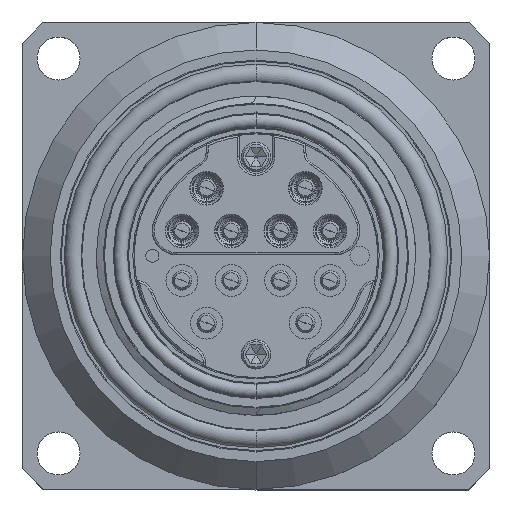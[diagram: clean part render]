
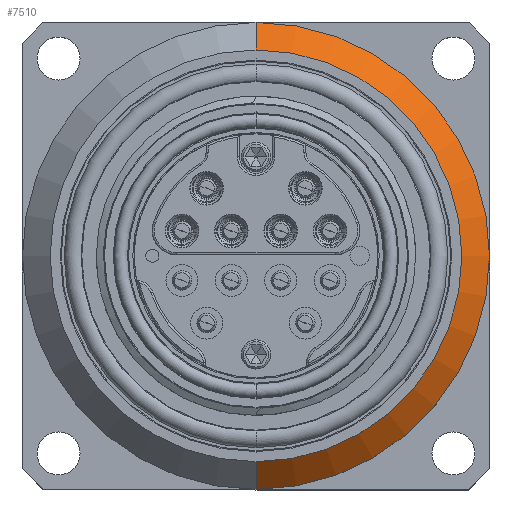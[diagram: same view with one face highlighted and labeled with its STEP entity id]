
A CAD part, top view. The second image highlights one B-rep face of the part: STEP entity #7510.
In plain terms, the highlighted conical face has half-angle 45 degrees and reference radius 30.035 mm.
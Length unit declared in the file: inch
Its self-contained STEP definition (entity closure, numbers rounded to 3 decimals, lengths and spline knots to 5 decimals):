
#1155 = CARTESIAN_POINT ( 'NONE',  ( 0., 0., -0.69822 ) ) ;
#4198 = VERTEX_POINT ( 'NONE', #92810 ) ;
#7510 = ADVANCED_FACE ( 'NONE', ( #67399 ), #53045, .T. ) ;
#9904 = VECTOR ( 'NONE', #24839, 39.37008 ) ;
#10522 = EDGE_CURVE ( 'NONE', #43821, #119560, #69199, .T. ) ;
#16336 = DIRECTION ( 'NONE',  ( 0., 0., -1. ) ) ;
#21244 = VERTEX_POINT ( 'NONE', #92582 ) ;
#22592 = DIRECTION ( 'NONE',  ( 0., 0.707, -0.707 ) ) ;
#22675 = ORIENTED_EDGE ( 'NONE', *, *, #36102, .F. ) ;
#24839 = DIRECTION ( 'NONE',  ( 0., -0.707, -0.707 ) ) ;
#24914 = CARTESIAN_POINT ( 'NONE',  ( 0., 0., -0.69822 ) ) ;
#25451 = LINE ( 'NONE', #42663, #9904 ) ;
#31564 = CIRCLE ( 'NONE', #51187, 1.1825 ) ;
#32154 = EDGE_LOOP ( 'NONE', ( #81818, #92666, #22675, #45270 ) ) ;
#33435 = AXIS2_PLACEMENT_3D ( 'NONE', #48741, #111300, #104533 ) ;
#36102 = EDGE_CURVE ( 'NONE', #119560, #21244, #31564, .T. ) ;
#37901 = CARTESIAN_POINT ( 'NONE',  ( 0., 1.0425, -0.55822 ) ) ;
#38031 = DIRECTION ( 'NONE',  ( 0., 1., 0. ) ) ;
#42663 = CARTESIAN_POINT ( 'NONE',  ( 0., -1.1825, -0.69822 ) ) ;
#43821 = VERTEX_POINT ( 'NONE', #37901 ) ;
#45270 = ORIENTED_EDGE ( 'NONE', *, *, #10522, .F. ) ;
#46841 = DIRECTION ( 'NONE',  ( 0., 1., 0. ) ) ;
#48741 = CARTESIAN_POINT ( 'NONE',  ( 0., 0., -0.55822 ) ) ;
#51187 = AXIS2_PLACEMENT_3D ( 'NONE', #24914, #16336, #46841 ) ;
#53045 = CONICAL_SURFACE ( 'NONE', #117644, 1.1825, 0.785 ) ;
#65075 = VECTOR ( 'NONE', #22592, 39.37008 ) ;
#67399 = FACE_OUTER_BOUND ( 'NONE', #32154, .T. ) ;
#69199 = LINE ( 'NONE', #106580, #65075 ) ;
#81818 = ORIENTED_EDGE ( 'NONE', *, *, #85817, .T. ) ;
#85817 = EDGE_CURVE ( 'NONE', #43821, #4198, #113700, .T. ) ;
#92582 = CARTESIAN_POINT ( 'NONE',  ( 0., -1.1825, -0.69822 ) ) ;
#92666 = ORIENTED_EDGE ( 'NONE', *, *, #119311, .T. ) ;
#92810 = CARTESIAN_POINT ( 'NONE',  ( 0., -1.0425, -0.55822 ) ) ;
#100265 = CARTESIAN_POINT ( 'NONE',  ( 0., 1.1825, -0.69822 ) ) ;
#102397 = DIRECTION ( 'NONE',  ( 0., 0., -1. ) ) ;
#104533 = DIRECTION ( 'NONE',  ( 0., 1., 0. ) ) ;
#106580 = CARTESIAN_POINT ( 'NONE',  ( 0., 1.1825, -0.69822 ) ) ;
#111300 = DIRECTION ( 'NONE',  ( 0., 0., -1. ) ) ;
#113700 = CIRCLE ( 'NONE', #33435, 1.0425 ) ;
#117644 = AXIS2_PLACEMENT_3D ( 'NONE', #1155, #102397, #38031 ) ;
#119311 = EDGE_CURVE ( 'NONE', #4198, #21244, #25451, .T. ) ;
#119560 = VERTEX_POINT ( 'NONE', #100265 ) ;
